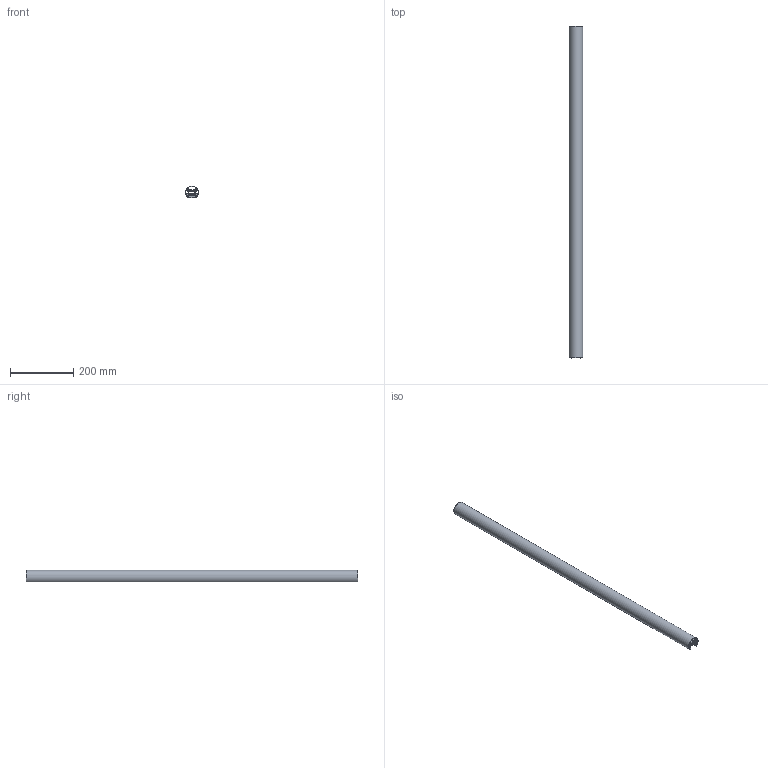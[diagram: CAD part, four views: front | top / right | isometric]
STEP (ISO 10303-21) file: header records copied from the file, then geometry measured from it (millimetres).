
FILE_DESCRIPTION(/* description */ ('STEP AP214'),/* implementation_level */ '2;1');
FILE_NAME(/* name */ '66fd4a897202d813c79aaaa5',/* time_stamp */ '2024-10-02T13:28:42Z',/* author */ (''),/* organization */ (''),/* preprocessor_version */ 'ST-DEVELOPER v20',/* originating_system */ ' ',/* authorisation */ ' ');
FILE_SCHEMA (('AUTOMOTIVE_DESIGN {1 0 10303 214 3 1 1}'));
Length unit declared in the file: metre
Products named in the file (5): ULTRA-SAFE-42.4-Lilly-sym-asym; A001148; Lilly vereinfacht; A000421_k; A001179
Assembly tree (4 placements, depth 2):
  ULTRA-SAFE-42.4-Lilly-sym-asym
    A001148
    Lilly vereinfacht
    A000421_k
    A001179
Bounding box: 42.37 x 1050 x 37 mm (x, y, z)
Volume: 621200 mm3; surface area: 497645.3 mm2
Topology: 4 solids, 4 shells, 180 faces, 474 edges, 305 vertices
Faces by surface type: plane 95, cylinder 77, bspline 8
Full cylindrical faces by diameter (mm): 4 x2, 4.2 x4, 5 x3, 6.6 x2
Entity records: 6880 total; most frequent: CARTESIAN_POINT 2307, DIRECTION 932, ORIENTED_EDGE 912, EDGE_CURVE 456, AXIS2_PLACEMENT_3D 315, LINE 302, VECTOR 302, VERTEX_POINT 298
